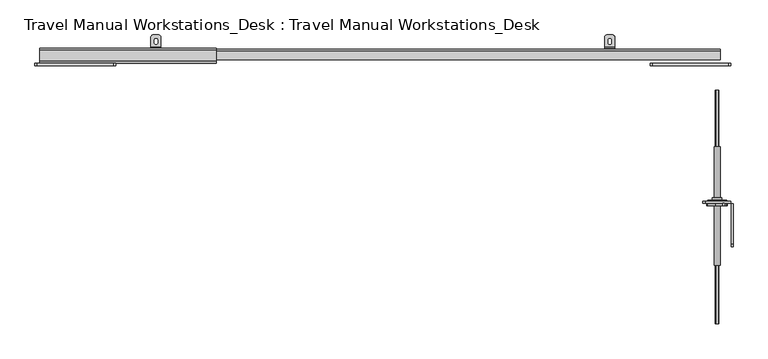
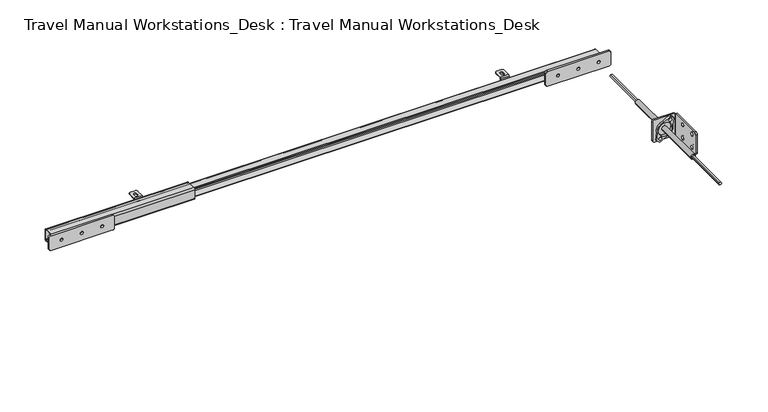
"""IFC4 building model written with IfcOpenShell, lengths in millimetres: furniture geometry, Travel Manual Workstations_Desk : Travel Manual Workstations_Desk."""

from ifc_helpers import new_model, si_unit, point, frame, frame_2d, origin, place, context, project, spatial, polyline, circle_curve, trimmed, segment, composite_curve, outline, extrude, source, transform, mapped, element, save
from ifc_brep_helpers import plane_surface, cylinder_surface, revolved_surface, advanced_brep


def travel_manual_workstations_desk_travel_manual_workstations_e242d452(model_context):
    return source(origin(), model_context, "Body", "SolidModel", [
        extrude(outline(composite_curve([segment(polyline([(-206.9832214, 639.5000063), (-206.9832214, 686.5000154)]), True, "CONTINUOUS"), segment(trimmed(circle_curve(frame_2d((-201.9832214, 686.5000154)), 5.0), [point((-206.9832214, 686.5000154))], [point((-201.9832214, 691.5000154))], False, "CARTESIAN"), True, "CONTINUOUS"), segment(polyline([(-201.9832214, 691.5000154), (-121.9831772, 691.5000154), (-121.9831772, 634.5000063), (-201.9832214, 634.5000063)]), True, "CONTINUOUS"), segment(trimmed(circle_curve(frame_2d((-201.9832214, 639.5000063)), 5.0), [point((-201.9832214, 634.5000063))], [point((-206.9832214, 639.5000063))], False, "CARTESIAN"), True, "CONTINUOUS")], self_intersect=False), holes=[composite_curve([segment(trimmed(circle_curve(frame_2d((-151.9969315, 680.0021708)), 4.3), [point((-151.9969315, 684.3021708))], [point((-151.9969315, 675.7021708))], True, "CARTESIAN"), True, "CONTINUOUS"), segment(trimmed(circle_curve(frame_2d((-151.9969315, 680.0021708)), 4.3), [point((-151.9969315, 675.7021708))], [point((-151.9969315, 684.3021708))], True, "CARTESIAN"), True, "CONTINUOUS")], self_intersect=False), composite_curve([segment(trimmed(circle_curve(frame_2d((-151.9969315, 645.9815534)), 4.3), [point((-151.9969315, 650.2815534))], [point((-151.9969315, 641.6815534))], True, "CARTESIAN"), True, "CONTINUOUS"), segment(trimmed(circle_curve(frame_2d((-151.9969315, 645.9815534)), 4.3), [point((-151.9969315, 641.6815534))], [point((-151.9969315, 650.2815534))], True, "CARTESIAN"), True, "CONTINUOUS")], self_intersect=False), composite_curve([segment(trimmed(circle_curve(frame_2d((-191.9969315, 680.0021708)), 4.3), [point((-191.9969315, 684.3021708))], [point((-191.9969315, 675.7021708))], True, "CARTESIAN"), True, "CONTINUOUS"), segment(trimmed(circle_curve(frame_2d((-191.9969315, 680.0021708)), 4.3), [point((-191.9969315, 675.7021708))], [point((-191.9969315, 684.3021708))], True, "CARTESIAN"), True, "CONTINUOUS")], self_intersect=False), composite_curve([segment(trimmed(circle_curve(frame_2d((-191.9969315, 645.9815534)), 4.3), [point((-191.9969315, 650.2815534))], [point((-191.9969315, 641.6815534))], True, "CARTESIAN"), True, "CONTINUOUS"), segment(trimmed(circle_curve(frame_2d((-191.9969315, 645.9815534)), 4.3), [point((-191.9969315, 641.6815534))], [point((-191.9969315, 650.2815534))], True, "CARTESIAN"), True, "CONTINUOUS")], self_intersect=False)]), frame((690.7545249, 0.0, 0.0), z_axis=(1.0, 0.0, 0.0), x_axis=(0.0, 1.0, 0.0)), (0.0, 0.0, 1.0), 4.0000102),
        extrude(outline(composite_curve([segment(trimmed(circle_curve(frame_2d((663.0181633, 663.0133889)), 8.3596862), [point((663.0181633, 671.373075))], [point((663.0181633, 654.6537027))], False, "CARTESIAN"), True, "CONTINUOUS"), segment(trimmed(circle_curve(frame_2d((663.0181633, 663.0133889)), 8.3596862), [point((663.0181633, 654.6537027))], [point((663.0181633, 671.373075))], False, "CARTESIAN"), True, "CONTINUOUS")], self_intersect=False)), frame((0.0, -116.9831917, 0.0), z_axis=(0.0, 1.0, 0.0), x_axis=(0.0, 0.0, 1.0)), (0.0, 0.0, 1.0), 2.0000233),
        extrude(outline(composite_curve([segment(trimmed(circle_curve(frame_2d((662.9674643, 663.0000057)), 9.5), [point((662.9674643, 672.5000057))], [point((662.9674643, 653.5000057))], False, "CARTESIAN"), True, "CONTINUOUS"), segment(trimmed(circle_curve(frame_2d((662.9674643, 663.0000057)), 9.5), [point((662.9674643, 653.5000057))], [point((662.9674643, 672.5000057))], False, "CARTESIAN"), True, "CONTINUOUS")], self_intersect=False)), frame((0.0, -114.9831684, 0.0), z_axis=(0.0, 1.0, 0.0), x_axis=(0.0, 0.0, 1.0)), (0.0, 0.0, 1.0), 4.500016),
        extrude(outline(composite_curve([segment(trimmed(circle_curve(frame_2d((662.9674643, 663.0000057)), 18.9953449), [point((676.6311578, 676.1957098))], [point((648.1858937, 651.0698632))], False, "CARTESIAN"), True, "CONTINUOUS"), segment(trimmed(circle_curve(frame_2d((662.9674643, 663.0000057)), 18.9953449), [point((648.1858937, 651.0698632))], [point((676.6311578, 676.1957098))], False, "CARTESIAN"), True, "CONTINUOUS")], self_intersect=False), holes=[composite_curve([segment(trimmed(circle_curve(frame_2d((662.9674643, 663.0000057)), 16.5953449), [point((662.9674643, 679.5953506))], [point((662.9674643, 646.4046608))], True, "CARTESIAN"), True, "CONTINUOUS"), segment(trimmed(circle_curve(frame_2d((662.9674643, 663.0000057)), 16.5953449), [point((662.9674643, 646.4046608))], [point((662.9674643, 679.5953506))], True, "CARTESIAN"), True, "CONTINUOUS")], self_intersect=False)]), frame((0.0, -116.9831917, 0.0), z_axis=(0.0, 1.0, 0.0), x_axis=(0.0, 0.0, 1.0)), (0.0, 0.0, 1.0), 2.0000233),
        extrude(outline(composite_curve([segment(polyline([(657.666264, 644.7593806), (638.7897154, 642.3090081), (635.4603791, 647.6499378)]), True, "CONTINUOUS"), segment(trimmed(circle_curve(frame_2d((639.7034901, 650.2949348)), 5.0), [point((635.4603791, 647.6499378))], [point((635.5350654, 653.0561367))], False, "CARTESIAN"), True, "CONTINUOUS"), segment(polyline([(635.5350654, 653.0561367), (644.2442662, 666.2039068)]), True, "CONTINUOUS"), segment(trimmed(circle_curve(frame_2d((662.9674643, 663.0000057)), 18.9953449), [point((644.2442662, 666.2039068))], [point((668.2779553, 681.2379281))], False, "CARTESIAN"), True, "CONTINUOUS"), segment(polyline([(668.2779553, 681.2379281), (684.6608375, 683.3646069)]), True, "CONTINUOUS"), segment(trimmed(circle_curve(frame_2d((685.1757613, 679.3978887)), 4.0), [point((684.6608375, 683.3646069))], [point((688.5702416, 681.5138998))], False, "CARTESIAN"), True, "CONTINUOUS"), segment(polyline([(688.5702416, 681.5138998), (690.879617, 677.8092269)]), True, "CONTINUOUS"), segment(trimmed(circle_curve(frame_2d((687.4851367, 675.6932157)), 4.0), [point((690.879617, 677.8092269))], [point((690.8198791, 673.4842583))], False, "CARTESIAN"), True, "CONTINUOUS"), segment(polyline([(690.8198791, 673.4842583), (681.6684365, 659.668825)]), True, "CONTINUOUS"), segment(trimmed(circle_curve(frame_2d((662.9674643, 663.0000057)), 18.9953449), [point((681.6684365, 659.668825))], [point((657.666264, 644.7593806))], False, "CARTESIAN"), True, "CONTINUOUS")], self_intersect=False), holes=[composite_curve([segment(trimmed(circle_curve(frame_2d((683.3191686, 675.5287099)), 3.5), [point((683.3191686, 672.0287099))], [point((683.3191686, 679.0287099))], True, "CARTESIAN"), True, "CONTINUOUS"), segment(trimmed(circle_curve(frame_2d((683.3191686, 675.5287099)), 3.5), [point((683.3191686, 679.0287099))], [point((683.3191686, 672.0287099))], True, "CARTESIAN"), True, "CONTINUOUS")], self_intersect=False), composite_curve([segment(trimmed(circle_curve(frame_2d((642.5524417, 650.5234184)), 3.5), [point((642.5524417, 647.0234184))], [point((642.5524417, 654.0234184))], True, "CARTESIAN"), True, "CONTINUOUS"), segment(trimmed(circle_curve(frame_2d((642.5524417, 650.5234184)), 3.5), [point((642.5524417, 654.0234184))], [point((642.5524417, 647.0234184))], True, "CARTESIAN"), True, "CONTINUOUS")], self_intersect=False), composite_curve([segment(trimmed(circle_curve(frame_2d((662.9674643, 663.0000057)), 16.7953449), [point((662.9674643, 679.7953506))], [point((662.9674643, 646.2046608))], True, "CARTESIAN"), True, "CONTINUOUS"), segment(trimmed(circle_curve(frame_2d((662.9674643, 663.0000057)), 16.7953449), [point((662.9674643, 646.2046608))], [point((662.9674643, 679.7953506))], True, "CARTESIAN"), True, "CONTINUOUS")], self_intersect=False)]), frame((0.0, -126.4831932, 0.0), z_axis=(0.0, 1.0, 0.0), x_axis=(0.0, 0.0, 1.0)), (0.0, 0.0, 1.0), 5.5001003),
        extrude(outline(composite_curve([segment(trimmed(circle_curve(frame_2d((639.5000063, 639.7545273)), 5.0), [point((639.5000063, 634.7545273))], [point((634.5000063, 639.7545273))], False, "CARTESIAN"), True, "CONTINUOUS"), segment(polyline([(634.5000063, 639.7545273), (634.5000063, 689.7545496), (691.5000154, 689.7545496), (691.5000154, 639.7545273)]), True, "CONTINUOUS"), segment(trimmed(circle_curve(frame_2d((686.5000154, 639.7545273)), 5.0), [point((691.5000154, 639.7545273))], [point((686.5000154, 634.7545273))], False, "CARTESIAN"), True, "CONTINUOUS"), segment(polyline([(686.5000154, 634.7545273), (639.5000063, 634.7545273)]), True, "CONTINUOUS")], self_intersect=False), holes=[composite_curve([segment(trimmed(circle_curve(frame_2d((683.3191686, 675.5287099)), 3.5), [point((683.3191686, 679.0287099))], [point((683.3191686, 672.0287099))], True, "CARTESIAN"), True, "CONTINUOUS"), segment(trimmed(circle_curve(frame_2d((683.3191686, 675.5287099)), 3.5), [point((683.3191686, 672.0287099))], [point((683.3191686, 679.0287099))], True, "CARTESIAN"), True, "CONTINUOUS")], self_intersect=False), composite_curve([segment(trimmed(circle_curve(frame_2d((642.5524417, 650.5234184)), 3.5), [point((642.5524417, 654.0234184))], [point((642.5524417, 647.0234184))], True, "CARTESIAN"), True, "CONTINUOUS"), segment(trimmed(circle_curve(frame_2d((642.5524417, 650.5234184)), 3.5), [point((642.5524417, 647.0234184))], [point((642.5524417, 654.0234184))], True, "CARTESIAN"), True, "CONTINUOUS")], self_intersect=False)]), frame((0.0, -120.9830929, 0.0), z_axis=(0.0, 1.0, 0.0), x_axis=(0.0, 0.0, 1.0)), (0.0, 0.0, 1.0), 3.9999012),
        extrude(outline(composite_curve([segment(trimmed(circle_curve(frame_2d((662.9674643, 663.0000057)), 6.0), [point((662.9674643, 669.0000057))], [point((662.9674643, 657.0000057))], False, "CARTESIAN"), True, "CONTINUOUS"), segment(trimmed(circle_curve(frame_2d((662.9674643, 663.0000057)), 6.0), [point((662.9674643, 657.0000057))], [point((662.9674643, 669.0000057))], False, "CARTESIAN"), True, "CONTINUOUS")], self_intersect=False)), frame((0.0, -244.5500439, 0.0), z_axis=(0.0, 1.0, 0.0), x_axis=(0.0, 0.0, 1.0)), (0.0, 0.0, 1.0), 235.0001202),
        extrude(outline(polyline([(666.149964, 661.1883426), (663.0000109, 659.3697036), (659.999976, 661.1018654), (659.999976, 664.9122432), (663.0000109, 666.644405), (666.149964, 664.825766), (666.149964, 661.1883426)])), frame((0.0, -359.9999737, 0.0), z_axis=(0.0, 1.0, 0.0), x_axis=(0.0, 0.0, 1.0)), (0.0, 0.0, 1.0), 463.1000053),
        advanced_brep(
        [(-445.0000051, 212.7499137, 685.0036533), (-454.9999762, 212.7499137, 685.0036533), (-459.9999617, 207.7499282, 685.0036533), (-459.9999617, 189.7498641, 685.0036533), (-440.0000196, 189.7498641, 685.0036533), (-440.0000196, 207.7499282, 685.0036533), (-453.2497923, 202.2499005, 685.0036533), (-446.7498983, 202.2499005, 685.0036533), (-446.7498983, 197.249915, 685.0036533), (-453.2497923, 197.249915, 685.0036533), (-445.0000051, 212.7499137, 683.00363), (-440.0000196, 207.7499282, 683.00363), (-440.0000196, 189.7498641, 683.00363), (-459.9999617, 189.7498641, 683.00363), (-459.9999617, 207.7499282, 683.00363), (-454.9999762, 212.7499137, 683.00363), (-453.2497923, 202.2499005, 683.00363), (-453.2497923, 197.249915, 683.00363), (-446.7498983, 197.249915, 683.00363), (-446.7498983, 202.2499005, 683.00363), (-440.0000196, 186.7499019, 682.0036184), (-440.0000196, 186.7499019, 664.003627), (-440.0000196, 188.7498525, 664.003627), (-440.0000196, 188.7498525, 682.0036184), (-459.9999617, 188.7498525, 682.0036184), (-459.9999617, 188.7498525, 664.003627), (-459.9999617, 186.7499019, 664.003627), (-459.9999617, 186.7499019, 682.0036184), (-445.0000051, 188.7498525, 659.0036414), (-454.9999762, 188.7498525, 659.0036414), (-454.9999762, 186.7499019, 659.0036414), (-445.0000051, 186.7499019, 659.0036414)],
        [
            (0, 1),
            (1, 2, circle_curve(frame((-454.9999762, 207.7499282, 685.0036533), z_axis=(0.0, 0.0, 1.0), x_axis=(1.0, 0.0, 0.0)), 4.9999855)),
            (2, 3),
            (3, 4),
            (4, 5),
            (5, 0, circle_curve(frame((-445.0000051, 207.7499282, 685.0036533), z_axis=(0.0, 0.0, 1.0), x_axis=(1.0, 0.0, 0.0)), 4.9999855)),
            (6, 7, circle_curve(frame((-449.9998453, 202.2499005, 685.0036533), z_axis=(0.0, 0.0, -1.0), x_axis=(1.0, 0.0, 0.0)), 3.249947)),
            (7, 8),
            (8, 9, circle_curve(frame((-449.9998453, 197.249915, 685.0036533), z_axis=(0.0, 0.0, -1.0), x_axis=(1.0, 0.0, 0.0)), 3.249947)),
            (9, 6),
            (10, 11, circle_curve(frame((-445.0000051, 207.7499282, 683.00363), z_axis=(0.0, 0.0, -1.0), x_axis=(1.0, 0.0, 0.0)), 4.9999855)),
            (11, 12),
            (12, 13),
            (13, 14),
            (14, 15, circle_curve(frame((-454.9999762, 207.7499282, 683.00363), z_axis=(0.0, 0.0, -1.0), x_axis=(1.0, 0.0, 0.0)), 4.9999855)),
            (15, 10),
            (16, 17),
            (17, 18, circle_curve(frame((-449.9998453, 197.249915, 683.00363), z_axis=(0.0, 0.0, 1.0), x_axis=(1.0, 0.0, 0.0)), 3.249947)),
            (18, 19),
            (19, 16, circle_curve(frame((-449.9998453, 202.2499005, 683.00363), z_axis=(0.0, 0.0, 1.0), x_axis=(1.0, 0.0, 0.0)), 3.249947)),
            (5, 11),
            (10, 0),
            (4, 20, circle_curve(frame((-440.0000196, 189.7498641, 682.003691), z_axis=(1.0, 0.0, 0.0), x_axis=(0.0, -1.0, 0.0)), 2.9999622)),
            (20, 21),
            (21, 22),
            (22, 23),
            (23, 12, circle_curve(frame((-440.0000196, 189.7498641, 682.0036184), z_axis=(-1.0, 0.0, 0.0), x_axis=(0.0, -1.0, 0.0)), 1.0000116)),
            (2, 14),
            (13, 24, circle_curve(frame((-459.9999617, 189.7498641, 682.0036184), z_axis=(1.0, 0.0, 0.0), x_axis=(0.0, -1.0, 0.0)), 1.0000116)),
            (24, 25),
            (25, 26),
            (26, 27),
            (27, 3, circle_curve(frame((-459.9999617, 189.7498641, 682.003691), z_axis=(-1.0, 0.0, 0.0), x_axis=(0.0, -1.0, 0.0)), 2.9999622)),
            (1, 15),
            (9, 17),
            (16, 6),
            (8, 18),
            (7, 19),
            (27, 20),
            (23, 24),
            (22, 28, circle_curve(frame((-445.0000051, 188.7498525, 664.003627), z_axis=(0.0, 1.0, 0.0), x_axis=(1.0, 0.0, 0.0)), 4.9999855)),
            (28, 29),
            (29, 25, circle_curve(frame((-454.9999762, 188.7498525, 664.003627), z_axis=(0.0, 1.0, 0.0), x_axis=(1.0, 0.0, 0.0)), 4.9999855)),
            (26, 30, circle_curve(frame((-454.9999762, 186.7499019, 664.003627), z_axis=(0.0, -1.0, 0.0), x_axis=(1.0, 0.0, 0.0)), 4.9999855)),
            (30, 31),
            (31, 21, circle_curve(frame((-445.0000051, 186.7499019, 664.003627), z_axis=(0.0, -1.0, 0.0), x_axis=(1.0, 0.0, 0.0)), 4.9999855)),
            (29, 30),
            (28, 31),
        ],
        [
            plane_surface(frame((-440.0000196, 207.7499282, 685.0036533), z_axis=(0.0, 0.0, 1.0), x_axis=(0.0, -1.0, 0.0))),
            plane_surface(frame((-440.0000196, 207.7499282, 683.00363), z_axis=(0.0, 0.0, -1.0), x_axis=(0.0, 1.0, 0.0))),
            cylinder_surface(frame((-445.0000051, 207.7499282, 683.00363), z_axis=(0.0, 0.0, 1.0), x_axis=(1.0, 0.0, 0.0)), 4.9999855),
            plane_surface(frame((-440.0000196, 207.7499282, 685.0036533), z_axis=(1.0, 0.0, 0.0), x_axis=(0.0, 0.0, -1.0))),
            plane_surface(frame((-459.9999617, 189.7498641, 685.0036533), z_axis=(-1.0, 0.0, 0.0), x_axis=(0.0, 0.0, -1.0))),
            cylinder_surface(frame((-454.9999762, 207.7499282, 683.00363), z_axis=(0.0, 0.0, 1.0), x_axis=(1.0, 0.0, 0.0)), 4.9999855),
            plane_surface(frame((-454.9999762, 212.7499137, 685.0036533), z_axis=(0.0, 1.0, 0.0), x_axis=(0.0, 0.0, -1.0))),
            plane_surface(frame((-453.2497923, 202.2499005, 685.0036533), z_axis=(1.0, 0.0, 0.0), x_axis=(0.0, 0.0, -1.0))),
            revolved_surface(polyline([(-446.7498983, 197.249915, 683.00363), (-446.7498983, 197.249915, 685.0036533)]), (-449.9998453, 197.249915, -9.9963666), (0.0, 0.0, -1.0)),
            plane_surface(frame((-446.7498983, 197.249915, 685.0036533), z_axis=(-1.0, 0.0, 0.0), x_axis=(0.0, 0.0, -1.0))),
            revolved_surface(polyline([(-446.7498983, 202.2499005, 683.00363), (-446.7498983, 202.2499005, 685.0036533)]), (-449.9998453, 202.2499005, -9.9963666), (0.0, 0.0, -1.0)),
            cylinder_surface(frame((-459.9999617, 189.7498641, 682.003691), z_axis=(1.0, 0.0, 0.0), x_axis=(0.0, -1.0, 0.0)), 2.9999622),
            revolved_surface(polyline([(-459.9999617, 188.7498525, 682.0036184), (-440.0000196, 188.7498525, 682.0036184)]), (-459.9999617, 189.7498641, 682.0036184), (-1.0, 0.0, 0.0)),
            plane_surface(frame((-449.9999907, 188.7498525, 664.003627), z_axis=(0.0, 1.0, 0.0), x_axis=(0.0, 0.0, 1.0))),
            plane_surface(frame((-449.9999907, 186.7499019, 664.003627), z_axis=(0.0, -1.0, 0.0), x_axis=(0.0, 0.0, -1.0))),
            cylinder_surface(frame((-454.9999762, 186.7499019, 664.003627), z_axis=(0.0, 1.0, 0.0), x_axis=(1.0, 0.0, 0.0)), 4.9999855),
            plane_surface(frame((-454.9999762, 188.7498525, 659.0036414), z_axis=(0.0, 0.0, -1.0), x_axis=(0.0, -1.0, 0.0))),
            cylinder_surface(frame((-445.0000051, 186.7499019, 664.003627), z_axis=(0.0, 1.0, 0.0), x_axis=(1.0, 0.0, 0.0)), 4.9999855),
        ],
        [
            (0, [[1, 2, 3, 4, 5, 6], [7, 8, 9, 10]]),
            (1, [[11, 12, 13, 14, 15, 16], [17, 18, 19, 20]]),
            (2, [[21, -11, 22, -6]]),
            (3, [[23, 24, 25, 26, 27, -12, -21, -5]]),
            (4, [[28, -14, 29, 30, 31, 32, 33, -3]]),
            (5, [[34, -15, -28, -2]]),
            (6, [[-22, -16, -34, -1]]),
            (7, [[35, -17, 36, -10]]),
            (8, [[37, -18, -35, -9]]),
            (9, [[38, -19, -37, -8]]),
            (10, [[-36, -20, -38, -7]]),
            (11, [[39, -23, -4, -33]]),
            (12, [[-13, -27, 40, -29]]),
            (13, [[-30, -40, -26, 41, 42, 43]]),
            (14, [[44, 45, 46, -24, -39, -32]]),
            (15, [[47, -44, -31, -43]]),
            (16, [[48, -45, -47, -42]]),
            (17, [[-25, -46, -48, -41]]),
        ],
    ),
        advanced_brep(
        [(445.0000353, 212.7499137, 685.0036533), (440.0000498, 207.7499282, 685.0036533), (440.0000498, 189.7498641, 685.0036533), (459.9999918, 189.7498641, 685.0036533), (459.9999918, 207.7499282, 685.0036533), (455.0000063, 212.7499137, 685.0036533), (453.2498224, 202.2499005, 685.0036533), (453.2498224, 197.249915, 685.0036533), (446.7499285, 197.249915, 685.0036533), (446.7499285, 202.2499005, 685.0036533), (445.0000353, 212.7499137, 683.00363), (455.0000063, 212.7499137, 683.00363), (459.9999918, 207.7499282, 683.00363), (459.9999918, 189.7498641, 683.00363), (440.0000498, 189.7498641, 683.00363), (440.0000498, 207.7499282, 683.00363), (453.2498224, 202.2499005, 683.00363), (446.7499285, 202.2499005, 683.00363), (446.7499285, 197.249915, 683.00363), (453.2498224, 197.249915, 683.00363), (440.0000498, 188.7498525, 682.0036184), (440.0000498, 188.7498525, 664.003627), (440.0000498, 186.7499019, 664.003627), (440.0000498, 186.7499019, 682.0036184), (459.9999918, 186.7499019, 682.0036184), (459.9999918, 186.7499019, 664.003627), (459.9999918, 188.7498525, 664.003627), (459.9999918, 188.7498525, 682.0036184), (455.0000063, 188.7498525, 659.0036414), (445.0000353, 188.7498525, 659.0036414), (445.0000353, 186.7499019, 659.0036414), (455.0000063, 186.7499019, 659.0036414)],
        [
            (0, 1, circle_curve(frame((445.0000353, 207.7499282, 685.0036533), z_axis=(0.0, 0.0, 1.0), x_axis=(-1.0, 0.0, 0.0)), 4.9999855)),
            (1, 2),
            (2, 3),
            (3, 4),
            (4, 5, circle_curve(frame((455.0000063, 207.7499282, 685.0036533), z_axis=(0.0, 0.0, 1.0), x_axis=(-1.0, 0.0, 0.0)), 4.9999855)),
            (5, 0),
            (6, 7),
            (7, 8, circle_curve(frame((449.9998755, 197.249915, 685.0036533), z_axis=(0.0, 0.0, -1.0), x_axis=(-1.0, 0.0, 0.0)), 3.249947)),
            (8, 9),
            (9, 6, circle_curve(frame((449.9998755, 202.2499005, 685.0036533), z_axis=(0.0, 0.0, -1.0), x_axis=(-1.0, 0.0, 0.0)), 3.249947)),
            (10, 11),
            (11, 12, circle_curve(frame((455.0000063, 207.7499282, 683.00363), z_axis=(0.0, 0.0, -1.0), x_axis=(-1.0, 0.0, 0.0)), 4.9999855)),
            (12, 13),
            (13, 14),
            (14, 15),
            (15, 10, circle_curve(frame((445.0000353, 207.7499282, 683.00363), z_axis=(0.0, 0.0, -1.0), x_axis=(-1.0, 0.0, 0.0)), 4.9999855)),
            (16, 17, circle_curve(frame((449.9998755, 202.2499005, 683.00363), z_axis=(0.0, 0.0, 1.0), x_axis=(-1.0, 0.0, 0.0)), 3.249947)),
            (17, 18),
            (18, 19, circle_curve(frame((449.9998755, 197.249915, 683.00363), z_axis=(0.0, 0.0, 1.0), x_axis=(-1.0, 0.0, 0.0)), 3.249947)),
            (19, 16),
            (0, 10),
            (15, 1),
            (14, 20, circle_curve(frame((440.0000498, 189.7498641, 682.0036184), z_axis=(1.0, 0.0, 0.0), x_axis=(0.0, -1.0, 0.0)), 1.0000116)),
            (20, 21),
            (21, 22),
            (22, 23),
            (23, 2, circle_curve(frame((440.0000498, 189.7498641, 682.003691), z_axis=(-1.0, 0.0, 0.0), x_axis=(0.0, -1.0, 0.0)), 2.9999622)),
            (3, 24, circle_curve(frame((459.9999918, 189.7498641, 682.003691), z_axis=(1.0, 0.0, 0.0), x_axis=(0.0, -1.0, 0.0)), 2.9999622)),
            (24, 25),
            (25, 26),
            (26, 27),
            (27, 13, circle_curve(frame((459.9999918, 189.7498641, 682.0036184), z_axis=(-1.0, 0.0, 0.0), x_axis=(0.0, -1.0, 0.0)), 1.0000116)),
            (12, 4),
            (11, 5),
            (6, 16),
            (19, 7),
            (18, 8),
            (17, 9),
            (23, 24),
            (27, 20),
            (26, 28, circle_curve(frame((455.0000063, 188.7498525, 664.003627), z_axis=(0.0, 1.0, 0.0), x_axis=(-1.0, 0.0, 0.0)), 4.9999855)),
            (28, 29),
            (29, 21, circle_curve(frame((445.0000353, 188.7498525, 664.003627), z_axis=(0.0, 1.0, 0.0), x_axis=(-1.0, 0.0, 0.0)), 4.9999855)),
            (22, 30, circle_curve(frame((445.0000353, 186.7499019, 664.003627), z_axis=(0.0, -1.0, 0.0), x_axis=(-1.0, 0.0, 0.0)), 4.9999855)),
            (30, 31),
            (31, 25, circle_curve(frame((455.0000063, 186.7499019, 664.003627), z_axis=(0.0, -1.0, 0.0), x_axis=(-1.0, 0.0, 0.0)), 4.9999855)),
            (31, 28),
            (30, 29),
        ],
        [
            plane_surface(frame((440.0000498, 207.7499282, 685.0036533), z_axis=(0.0, 0.0, 1.0), x_axis=(0.0, -1.0, 0.0))),
            plane_surface(frame((440.0000498, 207.7499282, 683.00363), z_axis=(0.0, 0.0, -1.0), x_axis=(0.0, 1.0, 0.0))),
            cylinder_surface(frame((445.0000353, 207.7499282, 683.00363), z_axis=(0.0, 0.0, 1.0), x_axis=(-1.0, 0.0, 0.0)), 4.9999855),
            plane_surface(frame((440.0000498, 207.7499282, 685.0036533), z_axis=(-1.0, 0.0, 0.0), x_axis=(0.0, 0.0, -1.0))),
            plane_surface(frame((459.9999918, 189.7498641, 685.0036533), z_axis=(1.0, 0.0, 0.0), x_axis=(0.0, 0.0, -1.0))),
            cylinder_surface(frame((455.0000063, 207.7499282, 683.00363), z_axis=(0.0, 0.0, 1.0), x_axis=(-1.0, 0.0, 0.0)), 4.9999855),
            plane_surface(frame((455.0000063, 212.7499137, 685.0036533), z_axis=(0.0, 1.0, 0.0), x_axis=(0.0, 0.0, -1.0))),
            plane_surface(frame((453.2498224, 202.2499005, 685.0036533), z_axis=(-1.0, 0.0, 0.0), x_axis=(0.0, 0.0, -1.0))),
            revolved_surface(polyline([(446.74992849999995, 197.249915, 683.00363), (446.74992849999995, 197.249915, 685.0036533)]), (449.9998755, 197.249915, -9.9963666), (0.0, 0.0, -1.0)),
            plane_surface(frame((446.7499285, 197.249915, 685.0036533), z_axis=(1.0, 0.0, 0.0), x_axis=(0.0, 0.0, -1.0))),
            revolved_surface(polyline([(446.74992849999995, 202.2499005, 683.00363), (446.74992849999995, 202.2499005, 685.0036533)]), (449.9998755, 202.2499005, -9.9963666), (0.0, 0.0, -1.0)),
            cylinder_surface(frame((459.9999918, 189.7498641, 682.003691), z_axis=(-1.0, 0.0, 0.0), x_axis=(0.0, -1.0, 0.0)), 2.9999622),
            revolved_surface(polyline([(459.9999918, 188.7498525, 682.0036184), (440.0000498, 188.7498525, 682.0036184)]), (459.9999918, 189.7498641, 682.0036184), (1.0, 0.0, 0.0)),
            plane_surface(frame((450.0000208, 188.7498525, 664.003627), z_axis=(0.0, 1.0, 0.0), x_axis=(0.0, 0.0, 1.0))),
            plane_surface(frame((450.0000208, 186.7499019, 664.003627), z_axis=(0.0, -1.0, 0.0), x_axis=(0.0, 0.0, -1.0))),
            cylinder_surface(frame((455.0000063, 186.7499019, 664.003627), z_axis=(0.0, 1.0, 0.0), x_axis=(-1.0, 0.0, 0.0)), 4.9999855),
            plane_surface(frame((455.0000063, 188.7498525, 659.0036414), z_axis=(0.0, 0.0, -1.0), x_axis=(0.0, -1.0, 0.0))),
            cylinder_surface(frame((445.0000353, 186.7499019, 664.003627), z_axis=(0.0, 1.0, 0.0), x_axis=(-1.0, 0.0, 0.0)), 4.9999855),
        ],
        [
            (0, [[1, 2, 3, 4, 5, 6], [7, 8, 9, 10]]),
            (1, [[11, 12, 13, 14, 15, 16], [17, 18, 19, 20]]),
            (2, [[-1, 21, -16, 22]]),
            (3, [[-2, -22, -15, 23, 24, 25, 26, 27]]),
            (4, [[-4, 28, 29, 30, 31, 32, -13, 33]]),
            (5, [[-5, -33, -12, 34]]),
            (6, [[-6, -34, -11, -21]]),
            (7, [[-7, 35, -20, 36]]),
            (8, [[-8, -36, -19, 37]]),
            (9, [[-9, -37, -18, 38]]),
            (10, [[-10, -38, -17, -35]]),
            (11, [[-28, -3, -27, 39]]),
            (12, [[-32, 40, -23, -14]]),
            (13, [[41, 42, 43, -24, -40, -31]]),
            (14, [[-29, -39, -26, 44, 45, 46]]),
            (15, [[-41, -30, -46, 47]]),
            (16, [[-42, -47, -45, 48]]),
            (17, [[-43, -48, -44, -25]]),
        ],
    ),
        extrude(outline(composite_curve([segment(polyline([(689.0000227, -534.9999822), (689.0000227, -684.9999907)]), True, "CONTINUOUS"), segment(trimmed(circle_curve(frame_2d((684.0000227, -684.9999907)), 5.0), [point((689.0000227, -684.9999907))], [point((684.0000227, -689.9999907))], False, "CARTESIAN"), True, "CONTINUOUS"), segment(polyline([(684.0000227, -689.9999907), (656.0000166, -689.9999907)]), True, "CONTINUOUS"), segment(trimmed(circle_curve(frame_2d((656.0000166, -684.9999907)), 5.0), [point((656.0000166, -689.9999907))], [point((651.0000166, -684.9999907))], False, "CARTESIAN"), True, "CONTINUOUS"), segment(polyline([(651.0000166, -684.9999907), (651.0000166, -534.9999822)]), True, "CONTINUOUS"), segment(trimmed(circle_curve(frame_2d((656.0000166, -534.9999822)), 5.0), [point((651.0000166, -534.9999822))], [point((656.0000166, -529.9999822))], False, "CARTESIAN"), True, "CONTINUOUS"), segment(polyline([(656.0000166, -529.9999822), (684.0000227, -529.9999822)]), True, "CONTINUOUS"), segment(trimmed(circle_curve(frame_2d((684.0000227, -534.9999822)), 5.0), [point((684.0000227, -529.9999822))], [point((689.0000227, -534.9999822))], False, "CARTESIAN"), True, "CONTINUOUS")], self_intersect=False), holes=[composite_curve([segment(trimmed(circle_curve(frame_2d((669.9805584, -659.9831959)), 3.4068579), [point((669.9805584, -656.576338))], [point((669.9805584, -663.3900539))], True, "CARTESIAN"), True, "CONTINUOUS"), segment(trimmed(circle_curve(frame_2d((669.9805584, -659.9831959)), 3.4068579), [point((669.9805584, -663.3900539))], [point((669.9805584, -656.576338))], True, "CARTESIAN"), True, "CONTINUOUS")], self_intersect=False), composite_curve([segment(trimmed(circle_curve(frame_2d((669.9805584, -609.9831959)), 3.4068579), [point((669.9805584, -606.576338))], [point((669.9805584, -613.3900539))], True, "CARTESIAN"), True, "CONTINUOUS"), segment(trimmed(circle_curve(frame_2d((669.9805584, -609.9831959)), 3.4068579), [point((669.9805584, -613.3900539))], [point((669.9805584, -606.576338))], True, "CARTESIAN"), True, "CONTINUOUS")], self_intersect=False), composite_curve([segment(trimmed(circle_curve(frame_2d((669.9805584, -559.9831959)), 3.4068579), [point((669.9805584, -556.576338))], [point((669.9805584, -563.3900539))], True, "CARTESIAN"), True, "CONTINUOUS"), segment(trimmed(circle_curve(frame_2d((669.9805584, -559.9831959)), 3.4068579), [point((669.9805584, -563.3900539))], [point((669.9805584, -556.576338))], True, "CARTESIAN"), True, "CONTINUOUS")], self_intersect=False)]), frame((0.0, 151.7499162, 0.0), z_axis=(0.0, 1.0, 0.0), x_axis=(0.0, 0.0, 1.0)), (0.0, 0.0, 1.0), 5.0),
        extrude(outline(composite_curve([segment(trimmed(circle_curve(frame_2d((684.0000227, 535.0000123)), 5.0), [point((689.0000227, 535.0000123))], [point((684.0000227, 530.0000123))], False, "CARTESIAN"), True, "CONTINUOUS"), segment(polyline([(684.0000227, 530.0000123), (656.0000166, 530.0000123)]), True, "CONTINUOUS"), segment(trimmed(circle_curve(frame_2d((656.0000166, 535.0000123)), 5.0), [point((656.0000166, 530.0000123))], [point((651.0000166, 535.0000123))], False, "CARTESIAN"), True, "CONTINUOUS"), segment(polyline([(651.0000166, 535.0000123), (651.0000166, 685.0000208)]), True, "CONTINUOUS"), segment(trimmed(circle_curve(frame_2d((656.0000166, 685.0000208)), 5.0), [point((651.0000166, 685.0000208))], [point((656.0000166, 690.0000208))], False, "CARTESIAN"), True, "CONTINUOUS"), segment(polyline([(656.0000166, 690.0000208), (684.0000227, 690.0000208)]), True, "CONTINUOUS"), segment(trimmed(circle_curve(frame_2d((684.0000227, 685.0000208)), 5.0), [point((684.0000227, 690.0000208))], [point((689.0000227, 685.0000208))], False, "CARTESIAN"), True, "CONTINUOUS"), segment(polyline([(689.0000227, 685.0000208), (689.0000227, 535.0000123)]), True, "CONTINUOUS")], self_intersect=False), holes=[composite_curve([segment(trimmed(circle_curve(frame_2d((669.9805584, 659.9832261)), 3.4068579), [point((669.9805584, 663.390084))], [point((669.9805584, 656.5763681))], True, "CARTESIAN"), True, "CONTINUOUS"), segment(trimmed(circle_curve(frame_2d((669.9805584, 659.9832261)), 3.4068579), [point((669.9805584, 656.5763681))], [point((669.9805584, 663.390084))], True, "CARTESIAN"), True, "CONTINUOUS")], self_intersect=False), composite_curve([segment(trimmed(circle_curve(frame_2d((669.9805584, 609.9832261)), 3.4068579), [point((669.9805584, 613.390084))], [point((669.9805584, 606.5763681))], True, "CARTESIAN"), True, "CONTINUOUS"), segment(trimmed(circle_curve(frame_2d((669.9805584, 609.9832261)), 3.4068579), [point((669.9805584, 606.5763681))], [point((669.9805584, 613.390084))], True, "CARTESIAN"), True, "CONTINUOUS")], self_intersect=False), composite_curve([segment(trimmed(circle_curve(frame_2d((669.9805584, 559.9832261)), 3.4068579), [point((669.9805584, 563.390084))], [point((669.9805584, 556.5763681))], True, "CARTESIAN"), True, "CONTINUOUS"), segment(trimmed(circle_curve(frame_2d((669.9805584, 559.9832261)), 3.4068579), [point((669.9805584, 556.5763681))], [point((669.9805584, 563.390084))], True, "CARTESIAN"), True, "CONTINUOUS")], self_intersect=False)]), frame((0.0, 151.7499162, 0.0), z_axis=(0.0, 1.0, 0.0), x_axis=(0.0, 0.0, 1.0)), (0.0, 0.0, 1.0), 5.0),
        advanced_brep(
        [(-679.9999907, 186.7499019, 681.0036533), (-679.9999907, 186.7499019, 659.0036676), (-679.9999907, 182.7499019, 655.0036676), (-679.9999907, 160.7499162, 655.0036676), (-679.9999907, 156.7499162, 659.0036676), (-679.9999907, 156.7499162, 681.0036533), (-679.9999907, 160.7499162, 685.0036533), (-679.9999907, 182.7499019, 685.0036533), (-679.9999907, 184.7498786, 659.0036182), (-679.9999907, 184.7498786, 681.00363), (-679.9999907, 182.7498786, 683.00363), (-679.9999907, 160.7570757, 683.00363), (-679.9999907, 158.7498668, 680.9964211), (-679.9999907, 158.7498668, 659.0036182), (-679.9999907, 160.7498668, 657.0036182), (-679.9999907, 182.7498786, 657.0036182), (-329.9999907, 186.7499019, 659.0036676), (-329.9999907, 186.7499019, 681.0036533), (-329.9999907, 182.7499019, 685.0036533), (-329.9999907, 160.7499162, 685.0036533), (-329.9999907, 156.7499162, 681.0036533), (-329.9999907, 156.7499162, 659.0036676), (-329.9999907, 160.7499162, 655.0036676), (-329.9999907, 182.7499019, 655.0036676), (-329.9999907, 184.7498786, 681.00363), (-329.9999907, 184.7498786, 659.0036182), (-329.9999907, 182.7498786, 657.0036182), (-329.9999907, 160.7498668, 657.0036182), (-329.9999907, 158.7498668, 659.0036182), (-329.9999907, 158.7498668, 680.9964211), (-329.9999907, 160.7570757, 683.00363), (-329.9999907, 182.7498786, 683.00363), (-664.9831959, 186.7499019, 669.9805584), (-654.9831959, 186.7499019, 669.9805584), (-614.9831959, 186.7499019, 669.9805584), (-604.9831959, 186.7499019, 669.9805584), (-564.9831959, 186.7499019, 669.9805584), (-554.9831959, 186.7499019, 669.9805584), (-358.7962407, 168.249909, 655.0036676), (-358.7962407, 175.249909, 655.0036676), (-387.5924907, 168.249909, 655.0036676), (-387.5924907, 175.249909, 655.0036676), (-416.3887407, 168.249909, 655.0036676), (-416.3887407, 175.249909, 655.0036676), (-654.9831959, 184.7498786, 669.9805584), (-664.9831959, 184.7498786, 669.9805584), (-604.9831959, 184.7498786, 669.9805584), (-614.9831959, 184.7498786, 669.9805584), (-554.9831959, 184.7498786, 669.9805584), (-564.9831959, 184.7498786, 669.9805584), (-358.7962407, 175.249909, 657.0036182), (-358.7962407, 168.249909, 657.0036182), (-387.5924907, 175.249909, 657.0036182), (-387.5924907, 168.249909, 657.0036182), (-416.3887407, 175.249909, 657.0036182), (-416.3887407, 168.249909, 657.0036182)],
        [
            (0, 1),
            (1, 2, circle_curve(frame((-679.9999907, 182.7499019, 659.0036676), z_axis=(-1.0, 0.0, 0.0), x_axis=(0.0, -1.0, 0.0)), 4.0)),
            (2, 3),
            (3, 4, circle_curve(frame((-679.9999907, 160.7499162, 659.0036676), z_axis=(-1.0, 0.0, 0.0), x_axis=(0.0, -1.0, 0.0)), 4.0)),
            (4, 5),
            (5, 6, circle_curve(frame((-679.9999907, 160.7499162, 681.0036533), z_axis=(-1.0, 0.0, 0.0), x_axis=(0.0, -1.0, 0.0)), 4.0)),
            (6, 7),
            (7, 0, circle_curve(frame((-679.9999907, 182.7499019, 681.0036533), z_axis=(-1.0, 0.0, 0.0), x_axis=(0.0, -1.0, 0.0)), 4.0)),
            (8, 9),
            (9, 10, circle_curve(frame((-679.9999907, 182.7498786, 681.00363), z_axis=(1.0, 0.0, 0.0), x_axis=(0.0, -1.0, 0.0)), 2.0)),
            (10, 11),
            (11, 12, circle_curve(frame((-679.9999907, 160.7570757, 680.9964211), z_axis=(1.0, 0.0, 0.0), x_axis=(0.0, -1.0, 0.0)), 2.0072089)),
            (12, 13),
            (13, 14, circle_curve(frame((-679.9999907, 160.7498668, 659.0036182), z_axis=(1.0, 0.0, 0.0), x_axis=(0.0, -1.0, 0.0)), 2.0)),
            (14, 15),
            (15, 8, circle_curve(frame((-679.9999907, 182.7498786, 659.0036182), z_axis=(1.0, 0.0, 0.0), x_axis=(0.0, -1.0, 0.0)), 2.0)),
            (16, 17),
            (17, 18, circle_curve(frame((-329.9999907, 182.7499019, 681.0036533), z_axis=(1.0, 0.0, 0.0), x_axis=(0.0, -1.0, 0.0)), 4.0)),
            (18, 19),
            (19, 20, circle_curve(frame((-329.9999907, 160.7499162, 681.0036533), z_axis=(1.0, 0.0, 0.0), x_axis=(0.0, -1.0, 0.0)), 4.0)),
            (20, 21),
            (21, 22, circle_curve(frame((-329.9999907, 160.7499162, 659.0036676), z_axis=(1.0, 0.0, 0.0), x_axis=(0.0, -1.0, 0.0)), 4.0)),
            (22, 23),
            (23, 16, circle_curve(frame((-329.9999907, 182.7499019, 659.0036676), z_axis=(1.0, 0.0, 0.0), x_axis=(0.0, -1.0, 0.0)), 4.0)),
            (24, 25),
            (25, 26, circle_curve(frame((-329.9999907, 182.7498786, 659.0036182), z_axis=(-1.0, 0.0, 0.0), x_axis=(0.0, -1.0, 0.0)), 2.0)),
            (26, 27),
            (27, 28, circle_curve(frame((-329.9999907, 160.7498668, 659.0036182), z_axis=(-1.0, 0.0, 0.0), x_axis=(0.0, -1.0, 0.0)), 2.0)),
            (28, 29),
            (29, 30, circle_curve(frame((-329.9999907, 160.7570757, 680.9964211), z_axis=(-1.0, 0.0, 0.0), x_axis=(0.0, -1.0, 0.0)), 2.0072089)),
            (30, 31),
            (31, 24, circle_curve(frame((-329.9999907, 182.7498786, 681.00363), z_axis=(-1.0, 0.0, 0.0), x_axis=(0.0, -1.0, 0.0)), 2.0)),
            (0, 17),
            (16, 1),
            (32, 33, circle_curve(frame((-659.9831959, 186.7499019, 669.9805584), z_axis=(0.0, -1.0, 0.0), x_axis=(-1.0, 0.0, 0.0)), 5.0)),
            (33, 32, circle_curve(frame((-659.9831959, 186.7499019, 669.9805584), z_axis=(0.0, -1.0, 0.0), x_axis=(-1.0, 0.0, 0.0)), 5.0)),
            (34, 35, circle_curve(frame((-609.9831959, 186.7499019, 669.9805584), z_axis=(0.0, -1.0, 0.0), x_axis=(-1.0, 0.0, 0.0)), 5.0)),
            (35, 34, circle_curve(frame((-609.9831959, 186.7499019, 669.9805584), z_axis=(0.0, -1.0, 0.0), x_axis=(-1.0, 0.0, 0.0)), 5.0)),
            (36, 37, circle_curve(frame((-559.9831959, 186.7499019, 669.9805584), z_axis=(0.0, -1.0, 0.0), x_axis=(-1.0, 0.0, 0.0)), 5.0)),
            (37, 36, circle_curve(frame((-559.9831959, 186.7499019, 669.9805584), z_axis=(0.0, -1.0, 0.0), x_axis=(-1.0, 0.0, 0.0)), 5.0)),
            (23, 2),
            (22, 3),
            (38, 39, circle_curve(frame((-358.7962407, 171.749909, 655.0036676), z_axis=(0.0, 0.0, 1.0), x_axis=(0.0, -1.0, 0.0)), 3.5)),
            (39, 38, circle_curve(frame((-358.7962407, 171.749909, 655.0036676), z_axis=(0.0, 0.0, 1.0), x_axis=(0.0, -1.0, 0.0)), 3.5)),
            (40, 41, circle_curve(frame((-387.5924907, 171.749909, 655.0036676), z_axis=(0.0, 0.0, 1.0), x_axis=(0.0, -1.0, 0.0)), 3.5)),
            (41, 40, circle_curve(frame((-387.5924907, 171.749909, 655.0036676), z_axis=(0.0, 0.0, 1.0), x_axis=(0.0, -1.0, 0.0)), 3.5)),
            (42, 43, circle_curve(frame((-416.3887407, 171.749909, 655.0036676), z_axis=(0.0, 0.0, 1.0), x_axis=(0.0, -1.0, 0.0)), 3.5)),
            (43, 42, circle_curve(frame((-416.3887407, 171.749909, 655.0036676), z_axis=(0.0, 0.0, 1.0), x_axis=(0.0, -1.0, 0.0)), 3.5)),
            (21, 4),
            (20, 5),
            (19, 6),
            (18, 7),
            (8, 25),
            (24, 9),
            (44, 45, circle_curve(frame((-659.9831959, 184.7498786, 669.9805584), z_axis=(0.0, 1.0, 0.0), x_axis=(-1.0, 0.0, 0.0)), 5.0)),
            (45, 44, circle_curve(frame((-659.9831959, 184.7498786, 669.9805584), z_axis=(0.0, 1.0, 0.0), x_axis=(-1.0, 0.0, 0.0)), 5.0)),
            (46, 47, circle_curve(frame((-609.9831959, 184.7498786, 669.9805584), z_axis=(0.0, 1.0, 0.0), x_axis=(-1.0, 0.0, 0.0)), 5.0)),
            (47, 46, circle_curve(frame((-609.9831959, 184.7498786, 669.9805584), z_axis=(0.0, 1.0, 0.0), x_axis=(-1.0, 0.0, 0.0)), 5.0)),
            (48, 49, circle_curve(frame((-559.9831959, 184.7498786, 669.9805584), z_axis=(0.0, 1.0, 0.0), x_axis=(-1.0, 0.0, 0.0)), 5.0)),
            (49, 48, circle_curve(frame((-559.9831959, 184.7498786, 669.9805584), z_axis=(0.0, 1.0, 0.0), x_axis=(-1.0, 0.0, 0.0)), 5.0)),
            (31, 10),
            (30, 11),
            (29, 12),
            (28, 13),
            (27, 14),
            (26, 15),
            (50, 51, circle_curve(frame((-358.7962407, 171.749909, 657.0036182), z_axis=(0.0, 0.0, -1.0), x_axis=(0.0, -1.0, 0.0)), 3.5)),
            (51, 50, circle_curve(frame((-358.7962407, 171.749909, 657.0036182), z_axis=(0.0, 0.0, -1.0), x_axis=(0.0, -1.0, 0.0)), 3.5)),
            (52, 53, circle_curve(frame((-387.5924907, 171.749909, 657.0036182), z_axis=(0.0, 0.0, -1.0), x_axis=(0.0, -1.0, 0.0)), 3.5)),
            (53, 52, circle_curve(frame((-387.5924907, 171.749909, 657.0036182), z_axis=(0.0, 0.0, -1.0), x_axis=(0.0, -1.0, 0.0)), 3.5)),
            (54, 55, circle_curve(frame((-416.3887407, 171.749909, 657.0036182), z_axis=(0.0, 0.0, -1.0), x_axis=(0.0, -1.0, 0.0)), 3.5)),
            (55, 54, circle_curve(frame((-416.3887407, 171.749909, 657.0036182), z_axis=(0.0, 0.0, -1.0), x_axis=(0.0, -1.0, 0.0)), 3.5)),
            (50, 39),
            (38, 51),
            (52, 41),
            (40, 53),
            (54, 43),
            (42, 55),
            (44, 33),
            (32, 45),
            (46, 35),
            (34, 47),
            (48, 37),
            (36, 49),
        ],
        [
            plane_surface(frame((-679.9999907, 186.7499019, 659.0036414), z_axis=(-1.0, 0.0, 0.0), x_axis=(0.0, 0.0, -1.0))),
            plane_surface(frame((-329.9999907, 186.7499019, 659.0036414), z_axis=(1.0, 0.0, 0.0), x_axis=(0.0, 0.0, 1.0))),
            plane_surface(frame((-679.9999907, 186.7499019, 681.0036533), z_axis=(0.0, 1.0, 0.0), x_axis=(1.0, 0.0, 0.0))),
            cylinder_surface(frame((-329.9999907, 182.7499019, 659.0036676), z_axis=(-1.0, 0.0, 0.0), x_axis=(0.0, -1.0, 0.0)), 4.0),
            plane_surface(frame((-679.9999907, 182.7499019, 655.0036676), z_axis=(0.0, 0.0, -1.0), x_axis=(1.0, 0.0, 0.0))),
            cylinder_surface(frame((-329.9999907, 160.7499162, 659.0036676), z_axis=(-1.0, 0.0, 0.0), x_axis=(0.0, -1.0, 0.0)), 4.0),
            plane_surface(frame((-679.9999907, 156.7499162, 659.0036676), z_axis=(0.0, -1.0, 0.0), x_axis=(1.0, 0.0, 0.0))),
            cylinder_surface(frame((-329.9999907, 160.7499162, 681.0036533), z_axis=(-1.0, 0.0, 0.0), x_axis=(0.0, -1.0, 0.0)), 4.0),
            plane_surface(frame((-679.9999907, 160.7499162, 685.0036533), z_axis=(0.0, 0.0, 1.0), x_axis=(1.0, 0.0, 0.0))),
            cylinder_surface(frame((-329.9999907, 182.7499019, 681.0036533), z_axis=(-1.0, 0.0, 0.0), x_axis=(0.0, -1.0, 0.0)), 4.0),
            plane_surface(frame((-679.9999907, 184.7498786, 659.0036182), z_axis=(0.0, -1.0, 0.0), x_axis=(1.0, 0.0, 0.0))),
            revolved_surface(polyline([(-329.9999907, 180.7498786, 681.00363), (-679.9999907, 180.7498786, 681.00363)]), (-586.0004034, 182.7498786, 681.00363), (1.0, 0.0, 0.0)),
            plane_surface(frame((-679.9999907, 182.7498786, 683.00363), z_axis=(0.0, 0.0, -1.0), x_axis=(1.0, 0.0, 0.0))),
            revolved_surface(polyline([(-329.9999907, 158.7498668, 680.9964211), (-679.9999907, 158.7498668, 680.9964211)]), (-586.0004034, 160.7570757, 680.9964211), (1.0, 0.0, 0.0)),
            plane_surface(frame((-679.9999907, 158.7498668, 680.9964211), z_axis=(0.0, 1.0, 0.0), x_axis=(1.0, 0.0, 0.0))),
            revolved_surface(polyline([(-329.9999907, 158.7498668, 659.0036182), (-679.9999907, 158.7498668, 659.0036182)]), (-586.0004034, 160.7498668, 659.0036182), (1.0, 0.0, 0.0)),
            plane_surface(frame((-679.9999907, 160.7498668, 657.0036182), z_axis=(0.0, 0.0, 1.0), x_axis=(1.0, 0.0, 0.0))),
            revolved_surface(polyline([(-329.9999907, 180.7498786, 659.0036182), (-679.9999907, 180.7498786, 659.0036182)]), (-586.0004034, 182.7498786, 659.0036182), (1.0, 0.0, 0.0)),
            revolved_surface(polyline([(-358.7962407, 168.249909, 655.0036676), (-358.7962407, 168.249909, 657.0036182)]), (-358.7962407, 171.749909, 680.0036676), (0.0, 0.0, -1.0)),
            revolved_surface(polyline([(-387.5924907, 168.249909, 655.0036676), (-387.5924907, 168.249909, 657.0036182)]), (-387.5924907, 171.749909, 680.0036676), (0.0, 0.0, -1.0)),
            revolved_surface(polyline([(-416.3887407, 168.249909, 655.0036676), (-416.3887407, 168.249909, 657.0036182)]), (-416.3887407, 171.749909, 680.0036676), (0.0, 0.0, -1.0)),
            revolved_surface(polyline([(-664.9831959, 186.7499019, 669.9805584), (-664.9831959, 184.7498786, 669.9805584)]), (-659.9831959, 161.7499019, 669.9805584), (0.0, 1.0, 0.0)),
            revolved_surface(polyline([(-614.9831959, 186.7499019, 669.9805584), (-614.9831959, 184.7498786, 669.9805584)]), (-609.9831959, 161.7499019, 669.9805584), (0.0, 1.0, 0.0)),
            revolved_surface(polyline([(-564.9831959, 186.7499019, 669.9805584), (-564.9831959, 184.7498786, 669.9805584)]), (-559.9831959, 161.7499019, 669.9805584), (0.0, 1.0, 0.0)),
        ],
        [
            (0, [[1, 2, 3, 4, 5, 6, 7, 8], [9, 10, 11, 12, 13, 14, 15, 16]]),
            (1, [[17, 18, 19, 20, 21, 22, 23, 24], [25, 26, 27, 28, 29, 30, 31, 32]]),
            (2, [[-1, 33, -17, 34], [35, 36], [37, 38], [39, 40]]),
            (3, [[-2, -34, -24, 41]]),
            (4, [[-3, -41, -23, 42], [43, 44], [45, 46], [47, 48]]),
            (5, [[-4, -42, -22, 49]]),
            (6, [[-5, -49, -21, 50]]),
            (7, [[-6, -50, -20, 51]]),
            (8, [[-7, -51, -19, 52]]),
            (9, [[-8, -52, -18, -33]]),
            (10, [[-9, 53, -25, 54], [55, 56], [57, 58], [59, 60]]),
            (11, [[-10, -54, -32, 61]]),
            (12, [[-11, -61, -31, 62]]),
            (13, [[-12, -62, -30, 63]]),
            (14, [[-13, -63, -29, 64]]),
            (15, [[-14, -64, -28, 65]]),
            (16, [[-15, -65, -27, 66], [67, 68], [69, 70], [71, 72]]),
            (17, [[-16, -66, -26, -53]]),
            (18, [[73, -43, 74, -67]]),
            (18, [[-73, -68, -74, -44]]),
            (19, [[75, -45, 76, -69]]),
            (19, [[-75, -70, -76, -46]]),
            (20, [[77, -47, 78, -71]]),
            (20, [[-77, -72, -78, -48]]),
            (21, [[79, -35, 80, -55]]),
            (21, [[-79, -56, -80, -36]]),
            (22, [[81, -37, 82, -57]]),
            (22, [[-81, -58, -82, -38]]),
            (23, [[83, -39, 84, -59]]),
            (23, [[-83, -60, -84, -40]]),
        ],
    ),
        extrude(outline(composite_curve([segment(polyline([(184.2499091, 678.5456273), (184.2499091, 661.4747788)]), True, "CONTINUOUS"), segment(trimmed(circle_curve(frame_2d((180.2787906, 661.4747788)), 3.9711185), [point((184.2499091, 661.4747788))], [point((180.2787906, 657.5036603))], False, "CARTESIAN"), True, "CONTINUOUS"), segment(polyline([(180.2787906, 657.5036603), (163.2499089, 657.5036603), (163.2499089, 659.5036603), (180.2787906, 659.5036603)]), True, "CONTINUOUS"), segment(trimmed(circle_curve(frame_2d((180.2787906, 661.4747788)), 1.9711185), [point((180.2787906, 659.5036603))], [point((182.2499091, 661.4747788))], True, "CARTESIAN"), True, "CONTINUOUS"), segment(polyline([(182.2499091, 661.4747788), (182.2499091, 678.5456273)]), True, "CONTINUOUS"), segment(trimmed(circle_curve(frame_2d((180.2918759, 678.5456273)), 1.9580332), [point((182.2499091, 678.5456273))], [point((180.2918759, 680.5036605))], True, "CARTESIAN"), True, "CONTINUOUS"), segment(polyline([(180.2918759, 680.5036605), (163.2499089, 680.5036605), (163.2499089, 682.5036605), (180.2918759, 682.5036605)]), True, "CONTINUOUS"), segment(trimmed(circle_curve(frame_2d((180.2918759, 678.5456273)), 3.9580332), [point((180.2918759, 682.5036605))], [point((184.2499091, 678.5456273))], False, "CARTESIAN"), True, "CONTINUOUS")], self_intersect=False)), frame((-669.3400773, 0.0, 0.0), z_axis=(1.0, 0.0, 0.0), x_axis=(0.0, 1.0, 0.0)), (0.0, 0.0, 1.0), 1338.6799031),
    ])


if __name__ == "__main__":
    model = new_model("IFC4")
    model_context = context("Model", 3, world=origin())
    ifc_project = project(units=[si_unit("LENGTHUNIT", "METRE", prefix="MILLI")], contexts=[model_context])
    site = spatial("IfcSite", under=ifc_project)
    building = spatial("IfcBuilding", under=site)
    placement = place(None, origin())
    travel_manual_workstations_desk_travel_manual_workstations_shape = travel_manual_workstations_desk_travel_manual_workstations_e242d452(model_context)
    element("IfcFurniture", 1, ObjectType="Travel Manual Workstations_Desk : Travel Manual Workstations_Desk", at=placement, inside=building, context=model_context, shape_type="MappedRepresentation", body=[
        mapped(travel_manual_workstations_desk_travel_manual_workstations_shape, transform((0.0, 0.0, 0.0), x_axis=(1.0, 0.0, 0.0), y_axis=(0.0, 1.0, 0.0), z_axis=(0.0, 0.0, 1.0))),
    ])
    save(model, "model.ifc")
